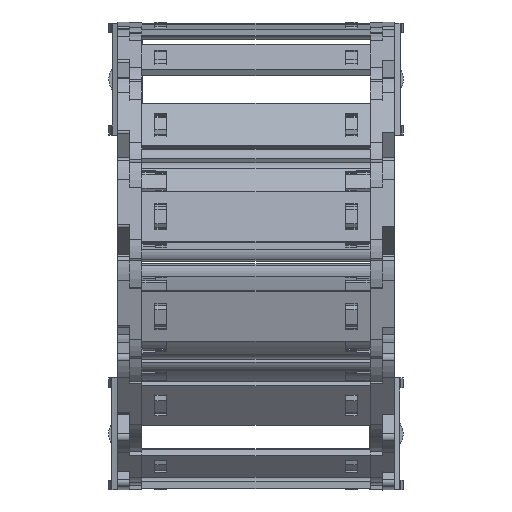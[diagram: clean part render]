
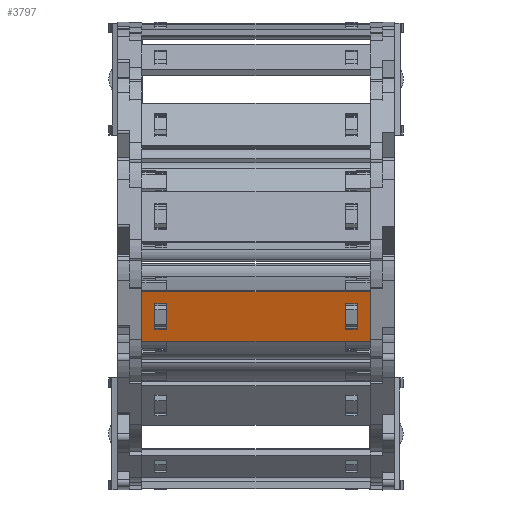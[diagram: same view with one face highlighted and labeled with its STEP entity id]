
A CAD part, top view. The second image highlights one B-rep face of the part: STEP entity #3797.
In plain terms, the highlighted planar face has unit normal (0, -0.259, 0.966) as drawn and (0, 1, 0) by its records, which use the part's own axes.
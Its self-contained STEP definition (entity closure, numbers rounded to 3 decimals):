
#2923=DIRECTION('',(0.,0.,1.));
#2924=VECTOR('',#2923,15.8);
#2925=CARTESIAN_POINT('',(55.74,1.5,-7.9));
#2926=LINE('',#2925,#2924);
#2930=DIRECTION('',(-1.,0.,0.));
#2931=VECTOR('',#2930,70.5);
#2932=CARTESIAN_POINT('',(55.74,1.5,7.9));
#2933=LINE('',#2932,#2931);
#2937=DIRECTION('',(0.,0.,-1.));
#2938=VECTOR('',#2937,15.8);
#2939=CARTESIAN_POINT('',(-14.76,1.5,7.9));
#2940=LINE('',#2939,#2938);
#2944=DIRECTION('',(1.,0.,0.));
#2945=VECTOR('',#2944,3.648);
#2946=CARTESIAN_POINT('',(48.122,1.5,4.075));
#2947=LINE('',#2946,#2945);
#2951=DIRECTION('',(0.,0.,-1.));
#2952=VECTOR('',#2951,8.15);
#2953=CARTESIAN_POINT('',(51.77,1.5,4.075));
#2954=LINE('',#2953,#2952);
#2958=DIRECTION('',(-1.,0.,0.));
#2959=VECTOR('',#2958,3.648);
#2960=CARTESIAN_POINT('',(51.77,1.5,-4.075));
#2961=LINE('',#2960,#2959);
#2965=DIRECTION('',(0.,0.,-1.));
#2966=VECTOR('',#2965,8.15);
#2967=CARTESIAN_POINT('',(-7.142,1.5,4.075));
#2968=LINE('',#2967,#2966);
#2972=DIRECTION('',(-1.,0.,0.));
#2973=VECTOR('',#2972,3.648);
#2974=CARTESIAN_POINT('',(-7.142,1.5,-4.075));
#2975=LINE('',#2974,#2973);
#2979=DIRECTION('',(0.,0.,1.));
#2980=VECTOR('',#2979,8.15);
#2981=CARTESIAN_POINT('',(-10.79,1.5,-4.075));
#2982=LINE('',#2981,#2980);
#2986=DIRECTION('',(1.,0.,0.));
#2987=VECTOR('',#2986,3.648);
#2988=CARTESIAN_POINT('',(-10.79,1.5,4.075));
#2989=LINE('',#2988,#2987);
#3000=DIRECTION('',(-1.,0.,0.));
#3001=VECTOR('',#3000,70.5);
#3002=CARTESIAN_POINT('',(55.74,1.5,-7.9));
#3003=LINE('',#3002,#3001);
#3208=DIRECTION('',(0.,0.,-1.));
#3209=VECTOR('',#3208,8.15);
#3210=CARTESIAN_POINT('',(48.122,1.5,4.075));
#3211=LINE('',#3210,#3209);
#3507=CARTESIAN_POINT('',(51.77,1.5,4.075));
#3508=VERTEX_POINT('',#3507);
#3509=CARTESIAN_POINT('',(48.122,1.5,4.075));
#3510=VERTEX_POINT('',#3509);
#3551=CARTESIAN_POINT('',(48.122,1.5,-4.075));
#3552=VERTEX_POINT('',#3551);
#3553=CARTESIAN_POINT('',(51.77,1.5,-4.075));
#3554=VERTEX_POINT('',#3553);
#3555=CARTESIAN_POINT('',(55.74,1.5,7.9));
#3557=VERTEX_POINT('',#3555);
#3559=CARTESIAN_POINT('',(55.74,1.5,-7.9));
#3560=VERTEX_POINT('',#3559);
#3583=CARTESIAN_POINT('',(-7.142,1.5,4.075));
#3584=CARTESIAN_POINT('',(-7.142,1.5,-4.075));
#3585=VERTEX_POINT('',#3583);
#3586=VERTEX_POINT('',#3584);
#3587=CARTESIAN_POINT('',(-10.79,1.5,-4.075));
#3588=VERTEX_POINT('',#3587);
#3589=CARTESIAN_POINT('',(-10.79,1.5,4.075));
#3590=VERTEX_POINT('',#3589);
#3591=CARTESIAN_POINT('',(-14.76,1.5,7.9));
#3592=VERTEX_POINT('',#3591);
#3595=CARTESIAN_POINT('',(-14.76,1.5,-7.9));
#3596=VERTEX_POINT('',#3595);
#3766=CARTESIAN_POINT('',(87.48,1.5,10.061));
#3767=DIRECTION('',(0.,-1.,0.));
#3768=DIRECTION('',(0.,0.,-1.));
#3769=AXIS2_PLACEMENT_3D('',#3766,#3767,#3768);
#3770=PLANE('',#3769);
#3771=ORIENTED_EDGE('',*,*,#3669,.T.);
#3772=ORIENTED_EDGE('',*,*,#3707,.T.);
#3773=ORIENTED_EDGE('',*,*,#3732,.T.);
#3775=ORIENTED_EDGE('',*,*,#3774,.F.);
#3776=EDGE_LOOP('',(#3771,#3772,#3773,#3775));
#3777=FACE_OUTER_BOUND('',#3776,.F.);
#3779=ORIENTED_EDGE('',*,*,#3778,.F.);
#3780=ORIENTED_EDGE('',*,*,#3608,.T.);
#3782=ORIENTED_EDGE('',*,*,#3781,.T.);
#3784=ORIENTED_EDGE('',*,*,#3783,.T.);
#3785=EDGE_LOOP('',(#3779,#3780,#3782,#3784));
#3786=FACE_BOUND('',#3785,.F.);
#3788=ORIENTED_EDGE('',*,*,#3787,.T.);
#3790=ORIENTED_EDGE('',*,*,#3789,.T.);
#3792=ORIENTED_EDGE('',*,*,#3791,.T.);
#3794=ORIENTED_EDGE('',*,*,#3793,.T.);
#3795=EDGE_LOOP('',(#3788,#3790,#3792,#3794));
#3796=FACE_BOUND('',#3795,.F.);
#3797=ADVANCED_FACE('',(#3777,#3786,#3796),#3770,.F.);
#3608=EDGE_CURVE('',#3510,#3508,#2947,.T.);
#3669=EDGE_CURVE('',#3560,#3557,#2926,.T.);
#3707=EDGE_CURVE('',#3557,#3592,#2933,.T.);
#3732=EDGE_CURVE('',#3592,#3596,#2940,.T.);
#3774=EDGE_CURVE('',#3560,#3596,#3003,.T.);
#3778=EDGE_CURVE('',#3510,#3552,#3211,.T.);
#3781=EDGE_CURVE('',#3508,#3554,#2954,.T.);
#3783=EDGE_CURVE('',#3554,#3552,#2961,.T.);
#3787=EDGE_CURVE('',#3585,#3586,#2968,.T.);
#3789=EDGE_CURVE('',#3586,#3588,#2975,.T.);
#3791=EDGE_CURVE('',#3588,#3590,#2982,.T.);
#3793=EDGE_CURVE('',#3590,#3585,#2989,.T.);
